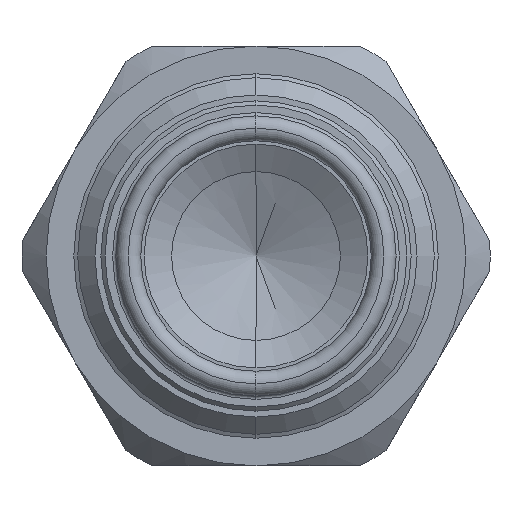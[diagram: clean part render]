
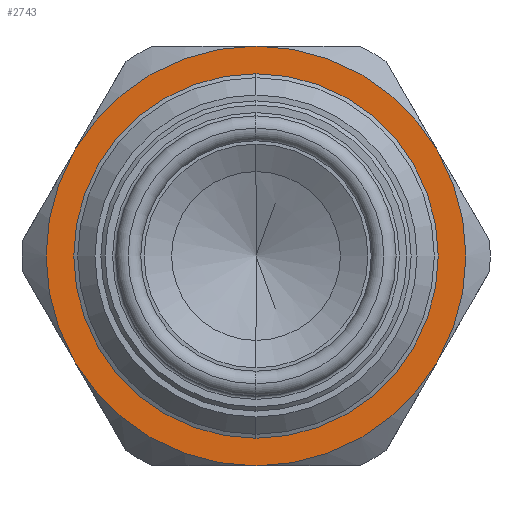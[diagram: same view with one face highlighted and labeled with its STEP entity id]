
A CAD part, left-side view. The second image highlights one B-rep face of the part: STEP entity #2743.
In plain terms, the highlighted planar face has unit normal (-1, 0, 0).
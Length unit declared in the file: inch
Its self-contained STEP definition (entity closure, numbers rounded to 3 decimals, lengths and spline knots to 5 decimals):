
#102 = CARTESIAN_POINT ( 'NONE',  ( 0.7495, 0., 0. ) ) ;
#128 = CARTESIAN_POINT ( 'NONE',  ( 0.7495, 0., 0. ) ) ;
#199 = VERTEX_POINT ( 'NONE', #9936 ) ;
#398 = ORIENTED_EDGE ( 'NONE', *, *, #13518, .T. ) ;
#401 = EDGE_CURVE ( 'NONE', #14111, #2676, #944, .T. ) ;
#944 = CIRCLE ( 'NONE', #4669, 0.3835 ) ;
#1020 = AXIS2_PLACEMENT_3D ( 'NONE', #14084, #11929, #4023 ) ;
#1105 = EDGE_LOOP ( 'NONE', ( #9568, #398, #10674, #4768, #11611, #4279 ) ) ;
#1292 = CARTESIAN_POINT ( 'NONE',  ( 0.7495, 0., 0. ) ) ;
#1471 = CIRCLE ( 'NONE', #12962, 0.5 ) ;
#1631 = CARTESIAN_POINT ( 'NONE',  ( 0.7495, 0., 0. ) ) ;
#1778 = EDGE_CURVE ( 'NONE', #13965, #7327, #6257, .T. ) ;
#1827 = CARTESIAN_POINT ( 'NONE',  ( 0.7495, 0., 0. ) ) ;
#1893 = FACE_OUTER_BOUND ( 'NONE', #1105, .T. ) ;
#2196 = CARTESIAN_POINT ( 'NONE',  ( 0.7495, 0.43301, -0.25 ) ) ;
#2542 = EDGE_CURVE ( 'NONE', #199, #13965, #7998, .T. ) ;
#2593 = ORIENTED_EDGE ( 'NONE', *, *, #401, .F. ) ;
#2676 = VERTEX_POINT ( 'NONE', #4353 ) ;
#2714 = DIRECTION ( 'NONE',  ( 0., 0., 1. ) ) ;
#2743 = ADVANCED_FACE ( 'NONE', ( #1893, #6265 ), #9577, .T. ) ;
#2849 = AXIS2_PLACEMENT_3D ( 'NONE', #1631, #7176, #8503 ) ;
#3000 = CARTESIAN_POINT ( 'NONE',  ( 0.7495, 0., 0. ) ) ;
#3452 = CARTESIAN_POINT ( 'NONE',  ( 0.7495, 0., 0.5 ) ) ;
#3554 = EDGE_CURVE ( 'NONE', #7327, #9147, #6154, .T. ) ;
#3583 = AXIS2_PLACEMENT_3D ( 'NONE', #3000, #6281, #10767 ) ;
#3822 = CARTESIAN_POINT ( 'NONE',  ( 0.7495, 0., 0. ) ) ;
#4023 = DIRECTION ( 'NONE',  ( 0., 0., 1. ) ) ;
#4279 = ORIENTED_EDGE ( 'NONE', *, *, #3554, .T. ) ;
#4353 = CARTESIAN_POINT ( 'NONE',  ( 0.7495, 0., -0.3835 ) ) ;
#4605 = EDGE_CURVE ( 'NONE', #10143, #199, #1471, .T. ) ;
#4669 = AXIS2_PLACEMENT_3D ( 'NONE', #1827, #9585, #14094 ) ;
#4768 = ORIENTED_EDGE ( 'NONE', *, *, #2542, .T. ) ;
#5151 = CIRCLE ( 'NONE', #12917, 0.3835 ) ;
#5494 = CARTESIAN_POINT ( 'NONE',  ( 0.7495, -0.43301, 0.25 ) ) ;
#5672 = DIRECTION ( 'NONE',  ( 0., 0., 1. ) ) ;
#5748 = CARTESIAN_POINT ( 'NONE',  ( 0.7495, -0.43301, -0.25 ) ) ;
#6154 = CIRCLE ( 'NONE', #8729, 0.5 ) ;
#6257 = CIRCLE ( 'NONE', #14486, 0.5 ) ;
#6265 = FACE_BOUND ( 'NONE', #10012, .T. ) ;
#6281 = DIRECTION ( 'NONE',  ( -1., 0., 0. ) ) ;
#7176 = DIRECTION ( 'NONE',  ( -1., 0., 0. ) ) ;
#7327 = VERTEX_POINT ( 'NONE', #14061 ) ;
#7640 = EDGE_CURVE ( 'NONE', #9147, #14481, #11718, .T. ) ;
#7710 = DIRECTION ( 'NONE',  ( -1., 0., 0. ) ) ;
#7998 = CIRCLE ( 'NONE', #3583, 0.5 ) ;
#8226 = DIRECTION ( 'NONE',  ( -1., 0., 0. ) ) ;
#8265 = DIRECTION ( 'NONE',  ( -1., 0., 0. ) ) ;
#8304 = ORIENTED_EDGE ( 'NONE', *, *, #12169, .F. ) ;
#8503 = DIRECTION ( 'NONE',  ( 0., 0., 1. ) ) ;
#8729 = AXIS2_PLACEMENT_3D ( 'NONE', #8959, #7710, #8812 ) ;
#8812 = DIRECTION ( 'NONE',  ( 0., 0., 1. ) ) ;
#8863 = DIRECTION ( 'NONE',  ( 0., 0., 1. ) ) ;
#8891 = DIRECTION ( 'NONE',  ( 0., 0., 1. ) ) ;
#8959 = CARTESIAN_POINT ( 'NONE',  ( 0.7495, 0., 0. ) ) ;
#9147 = VERTEX_POINT ( 'NONE', #5748 ) ;
#9568 = ORIENTED_EDGE ( 'NONE', *, *, #7640, .T. ) ;
#9577 = PLANE ( 'NONE',  #1020 ) ;
#9585 = DIRECTION ( 'NONE',  ( -1., 0., 0. ) ) ;
#9603 = AXIS2_PLACEMENT_3D ( 'NONE', #3822, #8265, #2714 ) ;
#9936 = CARTESIAN_POINT ( 'NONE',  ( 0.7495, 0.43301, 0.25 ) ) ;
#10012 = EDGE_LOOP ( 'NONE', ( #2593, #8304 ) ) ;
#10143 = VERTEX_POINT ( 'NONE', #3452 ) ;
#10674 = ORIENTED_EDGE ( 'NONE', *, *, #4605, .T. ) ;
#10767 = DIRECTION ( 'NONE',  ( 0., 0., 1. ) ) ;
#10960 = DIRECTION ( 'NONE',  ( -1., 0., 0. ) ) ;
#11039 = CIRCLE ( 'NONE', #2849, 0.5 ) ;
#11611 = ORIENTED_EDGE ( 'NONE', *, *, #1778, .T. ) ;
#11718 = CIRCLE ( 'NONE', #9603, 0.5 ) ;
#11771 = CARTESIAN_POINT ( 'NONE',  ( 0.7495, 0., 0.3835 ) ) ;
#11929 = DIRECTION ( 'NONE',  ( -1., 0., 0. ) ) ;
#12169 = EDGE_CURVE ( 'NONE', #2676, #14111, #5151, .T. ) ;
#12917 = AXIS2_PLACEMENT_3D ( 'NONE', #128, #10960, #8891 ) ;
#12962 = AXIS2_PLACEMENT_3D ( 'NONE', #102, #13296, #8863 ) ;
#13296 = DIRECTION ( 'NONE',  ( -1., 0., 0. ) ) ;
#13518 = EDGE_CURVE ( 'NONE', #14481, #10143, #11039, .T. ) ;
#13965 = VERTEX_POINT ( 'NONE', #2196 ) ;
#14061 = CARTESIAN_POINT ( 'NONE',  ( 0.7495, 0., -0.5 ) ) ;
#14084 = CARTESIAN_POINT ( 'NONE',  ( 0.7495, 0., 0. ) ) ;
#14094 = DIRECTION ( 'NONE',  ( 0., 0., 1. ) ) ;
#14111 = VERTEX_POINT ( 'NONE', #11771 ) ;
#14481 = VERTEX_POINT ( 'NONE', #5494 ) ;
#14486 = AXIS2_PLACEMENT_3D ( 'NONE', #1292, #8226, #5672 ) ;
